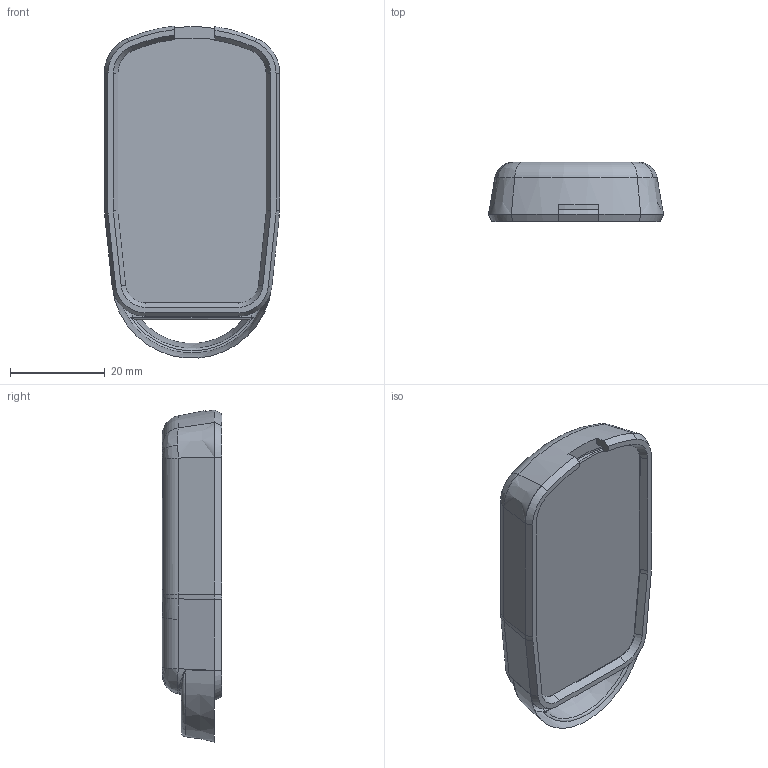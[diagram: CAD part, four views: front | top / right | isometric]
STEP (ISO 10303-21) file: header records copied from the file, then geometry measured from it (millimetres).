
FILE_DESCRIPTION(/* description */ (''),/* implementation_level */ '2;1');
FILE_NAME(/* name */ '//192.168.3.10/Documents/3DPrinting Files/Hyundai key fob v12.step',/* time_stamp */ '2021-01-19T09:04:04-08:00',/* author */ (''),/* organization */ (''),/* preprocessor_version */ 'ST-DEVELOPER v18.1',/* originating_system */ 'Autodesk Translation Framework v9.7.1.1290',/* authorisation */ '');
FILE_SCHEMA (('AUTOMOTIVE_DESIGN { 1 0 10303 214 3 1 1 }'));
Length unit declared in the file: millimetre
Products named in the file (1): Hyundai key fob
Bounding box: 37 x 12.5 x 70.12 mm (x, y, z)
Volume: 11716.3 mm3; surface area: 12336.8 mm2
Topology: 2 solids, 2 shells, 346 faces, 933 edges, 605 vertices
Faces by surface type: plane 125, bspline 124, cylinder 51, cone 36, torus 10
Entity records: 11882 total; most frequent: CARTESIAN_POINT 4227, ORIENTED_EDGE 1866, DIRECTION 1279, EDGE_CURVE 933, VERTEX_POINT 605, LINE 457, VECTOR 457, AXIS2_PLACEMENT_3D 411
